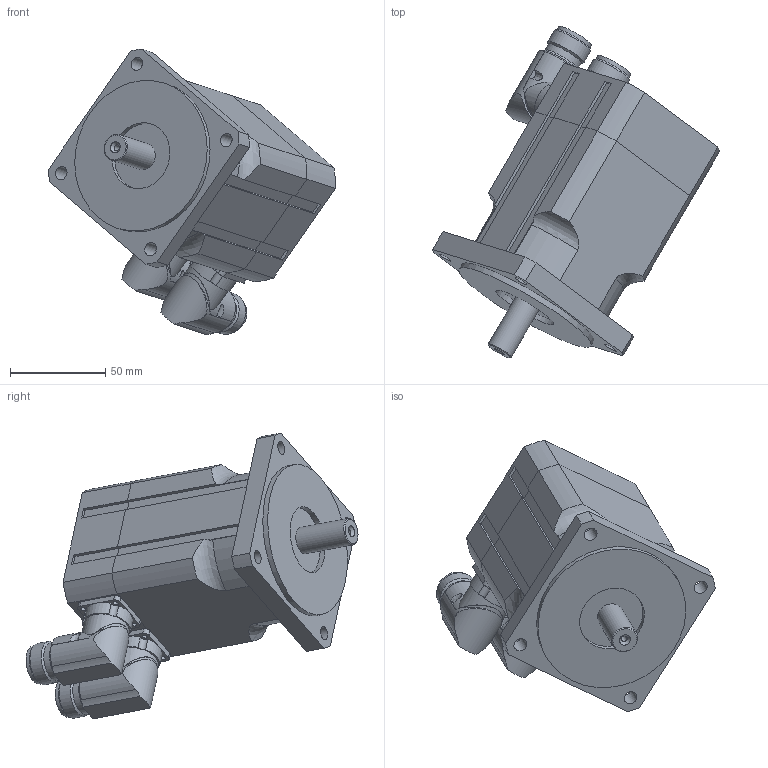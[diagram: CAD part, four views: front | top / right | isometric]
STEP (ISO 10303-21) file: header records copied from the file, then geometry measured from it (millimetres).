
FILE_DESCRIPTION(/* description */ ('Alibre Inc.'),/* implementation_level */ '2;1');
FILE_NAME(/* name */ 'export0',/* time_stamp */ '2011-08-10T12:33:35+02:00',/* author */ (''),/* organization */ (''),/* preprocessor_version */ 'ST-DEVELOPER v12',/* originating_system */ 'Alibre',/* authorisation */ '');
FILE_SCHEMA (('AUTOMOTIVE_DESIGN'));
Length unit declared in the file: millimetre
Products named in the file (4): ID_1
Bounding box: 150.28 x 173.97 x 149.85 mm (x, y, z)
Volume: 709897.9 mm3; surface area: 83307.2 mm2
Topology: 4 solids, 4 shells, 203 faces, 525 edges, 343 vertices
Faces by surface type: plane 88, cylinder 77, bspline 27, cone 7, torus 4
Full cylindrical faces by diameter (mm): 2.7 x8, 14 x1, 20 x6, 22 x4, 24 x2, 35 x1, 80 x1
Entity records: 5177 total; most frequent: CARTESIAN_POINT 1709, ORIENTED_EDGE 694, DIRECTION 632, EDGE_CURVE 347, AXIS2_PLACEMENT_3D 254, VERTEX_POINT 243, EDGE_LOOP 196, FACE_BOUND 196
